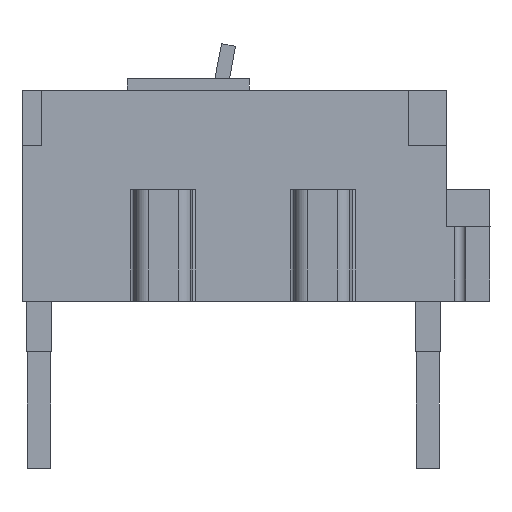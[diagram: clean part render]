
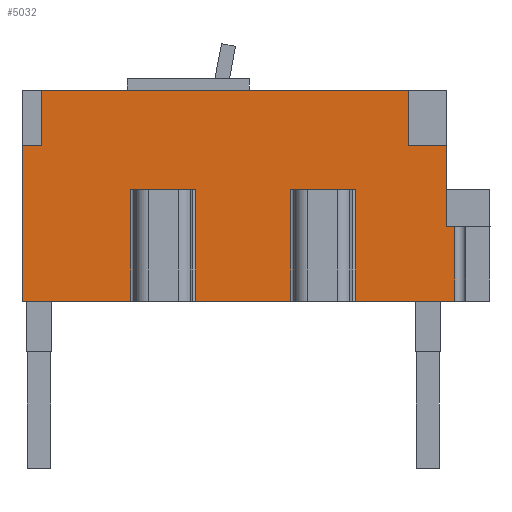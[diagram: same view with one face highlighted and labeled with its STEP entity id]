
A CAD part, left-side view. The second image highlights one B-rep face of the part: STEP entity #5032.
In plain terms, the highlighted planar face has unit normal (-1, 0, 0).
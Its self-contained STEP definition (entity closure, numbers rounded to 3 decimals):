
#145 = CARTESIAN_POINT ( 'NONE',  ( -225., 346.2, 162.85 ) ) ;
#155 = VERTEX_POINT ( 'NONE', #6137 ) ;
#210 = ORIENTED_EDGE ( 'NONE', *, *, #6337, .F. ) ;
#239 = CARTESIAN_POINT ( 'NONE',  ( -225., 33.677, 57.45 ) ) ;
#268 = CARTESIAN_POINT ( 'NONE',  ( -225., 346.2, 120.35 ) ) ;
#273 = VECTOR ( 'NONE', #2779, 1000. ) ;
#298 = CARTESIAN_POINT ( 'NONE',  ( -225., 361., 0. ) ) ;
#310 = EDGE_CURVE ( 'NONE', #155, #2920, #605, .T. ) ;
#605 = LINE ( 'NONE', #3257, #5043 ) ;
#615 = LINE ( 'NONE', #6671, #273 ) ;
#801 = DIRECTION ( 'NONE',  ( 0., 0.001, -1. ) ) ;
#928 = VERTEX_POINT ( 'NONE', #3131 ) ;
#1024 = ORIENTED_EDGE ( 'NONE', *, *, #1500, .F. ) ;
#1116 = VERTEX_POINT ( 'NONE', #4201 ) ;
#1192 = CARTESIAN_POINT ( 'NONE',  ( -225., 63.042, 162.85 ) ) ;
#1377 = EDGE_CURVE ( 'NONE', #3871, #1793, #6179, .T. ) ;
#1500 = EDGE_CURVE ( 'NONE', #1116, #5577, #3788, .T. ) ;
#1652 = CARTESIAN_POINT ( 'NONE',  ( -225., 361., 162.85 ) ) ;
#1684 = DIRECTION ( 'NONE',  ( 0., 0., 1. ) ) ;
#1722 = DIRECTION ( 'NONE',  ( 0., -1., 0. ) ) ;
#1793 = VERTEX_POINT ( 'NONE', #3907 ) ;
#1939 = ORIENTED_EDGE ( 'NONE', *, *, #1377, .F. ) ;
#1997 = ORIENTED_EDGE ( 'NONE', *, *, #3606, .F. ) ;
#2011 = VECTOR ( 'NONE', #801, 1000. ) ;
#2184 = LINE ( 'NONE', #3448, #5373 ) ;
#2207 = DIRECTION ( 'NONE',  ( 0., -1., 0. ) ) ;
#2354 = DIRECTION ( 'NONE',  ( 0., -1., 0. ) ) ;
#2411 = CARTESIAN_POINT ( 'NONE',  ( -225., 33.542, 162.85 ) ) ;
#2457 = VECTOR ( 'NONE', #6078, 1000. ) ;
#2539 = LINE ( 'NONE', #1652, #6320 ) ;
#2779 = DIRECTION ( 'NONE',  ( 0., 0., -1. ) ) ;
#2787 = EDGE_CURVE ( 'NONE', #4464, #5308, #5138, .T. ) ;
#2809 = CARTESIAN_POINT ( 'NONE',  ( -225., 33.596, 120.35 ) ) ;
#2920 = VERTEX_POINT ( 'NONE', #2809 ) ;
#3131 = CARTESIAN_POINT ( 'NONE',  ( -225., 361., 120.35 ) ) ;
#3197 = CARTESIAN_POINT ( 'NONE',  ( -225., 0., 0. ) ) ;
#3230 = ORIENTED_EDGE ( 'NONE', *, *, #3642, .F. ) ;
#3240 = CARTESIAN_POINT ( 'NONE',  ( -225., 0., 0. ) ) ;
#3257 = CARTESIAN_POINT ( 'NONE',  ( -225., 33.542, 120.35 ) ) ;
#3361 = EDGE_LOOP ( 'NONE', ( #1939, #3230, #1024, #210, #4434, #5938, #1997, #4397, #3955, #4472 ) ) ;
#3448 = CARTESIAN_POINT ( 'NONE',  ( -225., 63.042, 120.35 ) ) ;
#3549 = VECTOR ( 'NONE', #5927, 1000. ) ;
#3606 = EDGE_CURVE ( 'NONE', #5308, #6523, #2539, .T. ) ;
#3621 = EDGE_CURVE ( 'NONE', #928, #4464, #4885, .T. ) ;
#3638 = CARTESIAN_POINT ( 'NONE',  ( -225., 361., 120.35 ) ) ;
#3642 = EDGE_CURVE ( 'NONE', #5577, #3871, #615, .T. ) ;
#3685 = EDGE_CURVE ( 'NONE', #1793, #928, #4385, .T. ) ;
#3781 = DIRECTION ( 'NONE',  ( 0., 0., -1. ) ) ;
#3788 = LINE ( 'NONE', #239, #4135 ) ;
#3790 = DIRECTION ( 'NONE',  ( 0., -1., 0. ) ) ;
#3871 = VERTEX_POINT ( 'NONE', #5055 ) ;
#3907 = CARTESIAN_POINT ( 'NONE',  ( -225., 361., 0. ) ) ;
#3955 = ORIENTED_EDGE ( 'NONE', *, *, #3621, .F. ) ;
#4135 = VECTOR ( 'NONE', #2354, 1000. ) ;
#4154 = DIRECTION ( 'NONE',  ( 1., 0., 0. ) ) ;
#4201 = CARTESIAN_POINT ( 'NONE',  ( -225., 33.677, 57.45 ) ) ;
#4385 = LINE ( 'NONE', #298, #6727 ) ;
#4397 = ORIENTED_EDGE ( 'NONE', *, *, #2787, .F. ) ;
#4434 = ORIENTED_EDGE ( 'NONE', *, *, #310, .F. ) ;
#4451 = CARTESIAN_POINT ( 'NONE',  ( -225., 27.25, 57.45 ) ) ;
#4464 = VERTEX_POINT ( 'NONE', #268 ) ;
#4472 = ORIENTED_EDGE ( 'NONE', *, *, #3685, .F. ) ;
#4830 = AXIS2_PLACEMENT_3D ( 'NONE', #3197, #4154, #3781 ) ;
#4885 = LINE ( 'NONE', #3638, #6155 ) ;
#5032 = ADVANCED_FACE ( 'NONE', ( #5512 ), #6870, .F. ) ;
#5043 = VECTOR ( 'NONE', #3790, 1000. ) ;
#5055 = CARTESIAN_POINT ( 'NONE',  ( -225., 27.25, 0. ) ) ;
#5138 = LINE ( 'NONE', #6400, #2457 ) ;
#5308 = VERTEX_POINT ( 'NONE', #145 ) ;
#5373 = VECTOR ( 'NONE', #1684, 1000. ) ;
#5512 = FACE_OUTER_BOUND ( 'NONE', #3361, .T. ) ;
#5577 = VERTEX_POINT ( 'NONE', #4451 ) ;
#5592 = DIRECTION ( 'NONE',  ( 0., 0., 1. ) ) ;
#5927 = DIRECTION ( 'NONE',  ( 0., 1., 0. ) ) ;
#5938 = ORIENTED_EDGE ( 'NONE', *, *, #6892, .T. ) ;
#6078 = DIRECTION ( 'NONE',  ( 0., 0., 1. ) ) ;
#6129 = LINE ( 'NONE', #2411, #2011 ) ;
#6137 = CARTESIAN_POINT ( 'NONE',  ( -225., 63.042, 120.35 ) ) ;
#6155 = VECTOR ( 'NONE', #1722, 1000. ) ;
#6179 = LINE ( 'NONE', #3240, #3549 ) ;
#6320 = VECTOR ( 'NONE', #2207, 1000. ) ;
#6337 = EDGE_CURVE ( 'NONE', #2920, #1116, #6129, .T. ) ;
#6400 = CARTESIAN_POINT ( 'NONE',  ( -225., 346.2, 120.35 ) ) ;
#6523 = VERTEX_POINT ( 'NONE', #1192 ) ;
#6671 = CARTESIAN_POINT ( 'NONE',  ( -225., 27.25, 70.959 ) ) ;
#6727 = VECTOR ( 'NONE', #5592, 1000. ) ;
#6870 = PLANE ( 'NONE',  #4830 ) ;
#6892 = EDGE_CURVE ( 'NONE', #155, #6523, #2184, .T. ) ;
